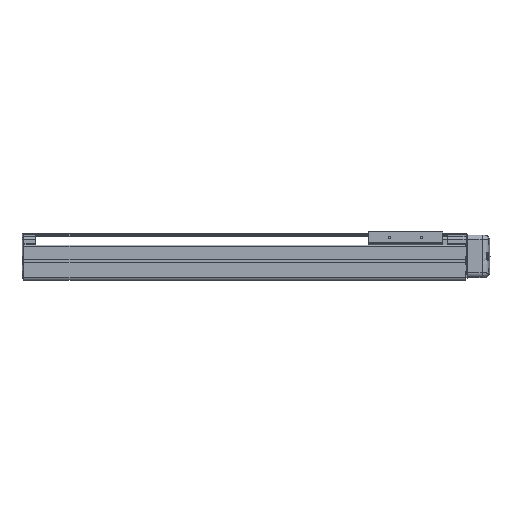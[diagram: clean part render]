
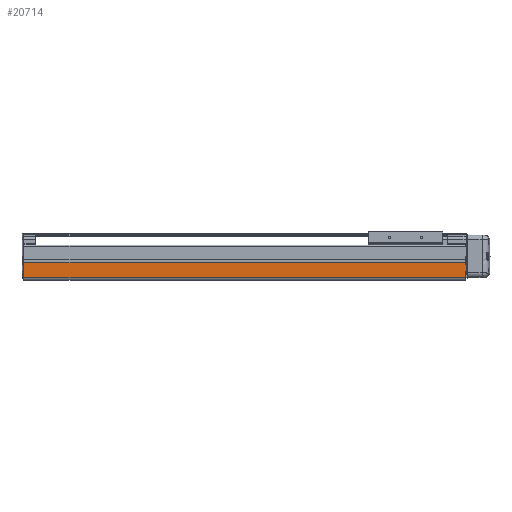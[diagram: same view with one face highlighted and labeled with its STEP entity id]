
A CAD part, top view. The second image highlights one B-rep face of the part: STEP entity #20714.
In plain terms, the highlighted planar face has unit normal (0, 0, 1).
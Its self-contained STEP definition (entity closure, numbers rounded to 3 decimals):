
#4612=DIRECTION('',(1.,0.,0.));
#4613=VECTOR('',#4612,0.7);
#4614=CARTESIAN_POINT('',(691.,14.,39.));
#4615=LINE('',#4614,#4613);
#4620=DIRECTION('',(0.,1.,0.));
#4621=VECTOR('',#4620,3.9);
#4622=CARTESIAN_POINT('',(691.,25.,39.));
#4623=LINE('',#4622,#4621);
#4624=DIRECTION('',(0.,1.,0.));
#4625=VECTOR('',#4624,9.5);
#4626=CARTESIAN_POINT('',(691.,4.5,39.));
#4627=LINE('',#4626,#4625);
#4628=DIRECTION('',(0.,-1.,0.));
#4629=VECTOR('',#4628,24.4);
#4630=CARTESIAN_POINT('',(0.,28.9,39.));
#4631=LINE('',#4630,#4629);
#4641=DIRECTION('',(-1.,0.,0.));
#4642=VECTOR('',#4641,0.7);
#4643=CARTESIAN_POINT('',(691.7,25.,39.));
#4644=LINE('',#4643,#4642);
#5320=DIRECTION('',(0.,1.,0.));
#5321=VECTOR('',#5320,11.);
#5322=CARTESIAN_POINT('',(691.7,14.,39.));
#5323=LINE('',#5322,#5321);
#5422=DIRECTION('',(1.,0.,0.));
#5423=VECTOR('',#5422,691.);
#5424=CARTESIAN_POINT('',(0.,4.5,39.));
#5425=LINE('',#5424,#5423);
#5618=DIRECTION('',(-1.,0.,0.));
#5619=VECTOR('',#5618,691.);
#5620=CARTESIAN_POINT('',(691.,28.9,39.));
#5621=LINE('',#5620,#5619);
#12919=CARTESIAN_POINT('',(0.,4.5,39.));
#12920=VERTEX_POINT('',#12919);
#12921=CARTESIAN_POINT('',(0.,28.9,39.));
#12922=VERTEX_POINT('',#12921);
#13035=CARTESIAN_POINT('',(691.,28.9,39.));
#13036=VERTEX_POINT('',#13035);
#13038=CARTESIAN_POINT('',(691.,4.5,39.));
#13040=VERTEX_POINT('',#13038);
#13934=CARTESIAN_POINT('',(691.7,14.,39.));
#13935=CARTESIAN_POINT('',(691.7,25.,39.));
#13936=VERTEX_POINT('',#13934);
#13937=VERTEX_POINT('',#13935);
#14530=CARTESIAN_POINT('',(691.,14.,39.));
#14531=VERTEX_POINT('',#14530);
#14532=CARTESIAN_POINT('',(691.,25.,39.));
#14534=VERTEX_POINT('',#14532);
#20695=CARTESIAN_POINT('',(345.5,16.7,39.));
#20696=DIRECTION('',(0.,0.,1.));
#20697=DIRECTION('',(0.,-1.,0.));
#20698=AXIS2_PLACEMENT_3D('',#20695,#20696,#20697);
#20699=PLANE('',#20698);
#20700=ORIENTED_EDGE('',*,*,#18568,.F.);
#20702=ORIENTED_EDGE('',*,*,#20701,.F.);
#20704=ORIENTED_EDGE('',*,*,#20703,.F.);
#20705=ORIENTED_EDGE('',*,*,#20687,.F.);
#20706=ORIENTED_EDGE('',*,*,#18714,.F.);
#20708=ORIENTED_EDGE('',*,*,#20707,.F.);
#20709=ORIENTED_EDGE('',*,*,#18068,.F.);
#20711=ORIENTED_EDGE('',*,*,#20710,.F.);
#20712=EDGE_LOOP('',(#20700,#20702,#20704,#20705,#20706,#20708,#20709,#20711));
#20713=FACE_OUTER_BOUND('',#20712,.F.);
#20714=ADVANCED_FACE('',(#20713),#20699,.T.);
#18068=EDGE_CURVE('',#12922,#12920,#4631,.T.);
#18568=EDGE_CURVE('',#14534,#13036,#4623,.T.);
#18714=EDGE_CURVE('',#13040,#14531,#4627,.T.);
#20687=EDGE_CURVE('',#14531,#13936,#4615,.T.);
#20701=EDGE_CURVE('',#13937,#14534,#4644,.T.);
#20703=EDGE_CURVE('',#13936,#13937,#5323,.T.);
#20707=EDGE_CURVE('',#12920,#13040,#5425,.T.);
#20710=EDGE_CURVE('',#13036,#12922,#5621,.T.);
